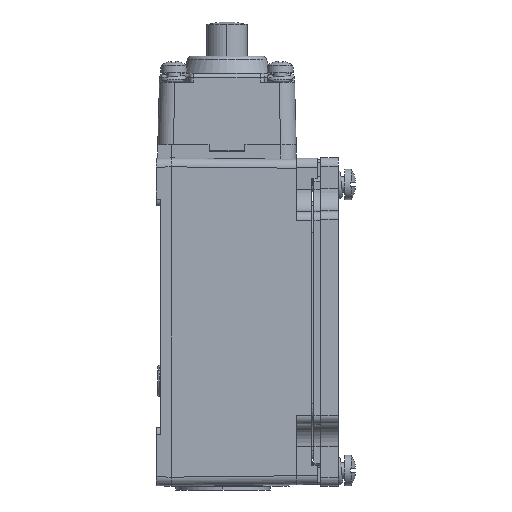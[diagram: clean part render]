
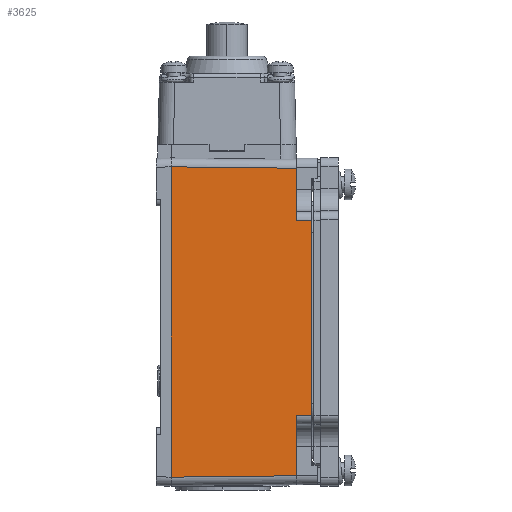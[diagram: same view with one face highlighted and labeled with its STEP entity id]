
A CAD part, left-side view. The second image highlights one B-rep face of the part: STEP entity #3625.
In plain terms, the highlighted planar face has unit normal (-1, -0.011, 0).
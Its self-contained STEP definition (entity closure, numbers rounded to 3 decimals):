
#2437=FACE_OUTER_BOUND('',#5420,.T.);
#3625=ADVANCED_FACE('',(#2437),#4310,.T.);
#4310=PLANE('',#21832);
#5420=EDGE_LOOP('',(#12828,#12829,#12830,#12831,#12832,#12833,#12834,#12835));
#6491=LINE('',#52815,#7942);
#6503=LINE('',#52866,#7954);
#6517=LINE('',#52898,#7968);
#6522=LINE('',#52914,#7973);
#6846=LINE('',#54889,#8297);
#6847=LINE('',#54891,#8298);
#6848=LINE('',#54893,#8299);
#6849=LINE('',#54894,#8300);
#7942=VECTOR('',#24958,1.);
#7954=VECTOR('',#25000,1.);
#7968=VECTOR('',#25042,1.);
#7973=VECTOR('',#25055,1.);
#8297=VECTOR('',#26173,1.);
#8298=VECTOR('',#26176,1.);
#8299=VECTOR('',#26177,1.);
#8300=VECTOR('',#26178,1.);
#12828=ORIENTED_EDGE('',*,*,#18248,.T.);
#12829=ORIENTED_EDGE('',*,*,#18240,.F.);
#12830=ORIENTED_EDGE('',*,*,#18199,.T.);
#12831=ORIENTED_EDGE('',*,*,#18817,.T.);
#12832=ORIENTED_EDGE('',*,*,#18818,.T.);
#12833=ORIENTED_EDGE('',*,*,#18819,.F.);
#12834=ORIENTED_EDGE('',*,*,#18224,.T.);
#12835=ORIENTED_EDGE('',*,*,#18820,.F.);
#15791=VERTEX_POINT('',#52814);
#15792=VERTEX_POINT('',#52816);
#15808=VERTEX_POINT('',#52852);
#15815=VERTEX_POINT('',#52865);
#15820=VERTEX_POINT('',#52899);
#15827=VERTEX_POINT('',#52915);
#16183=VERTEX_POINT('',#54888);
#16184=VERTEX_POINT('',#54892);
#18199=EDGE_CURVE('',#15792,#15791,#6491,.T.);
#18224=EDGE_CURVE('',#15808,#15815,#6503,.T.);
#18240=EDGE_CURVE('',#15792,#15820,#6517,.T.);
#18248=EDGE_CURVE('',#15827,#15820,#6522,.T.);
#18817=EDGE_CURVE('',#15791,#16183,#6846,.T.);
#18818=EDGE_CURVE('',#16183,#16184,#6847,.T.);
#18819=EDGE_CURVE('',#15808,#16184,#6848,.T.);
#18820=EDGE_CURVE('',#15827,#15815,#6849,.T.);
#21832=AXIS2_PLACEMENT_3D('',#54895,#26179,#26180);
#24958=DIRECTION('',(0.,0.,1.));
#25000=DIRECTION('',(0.,0.,1.));
#25042=DIRECTION('',(0.011,-1.,0.));
#25055=DIRECTION('',(0.,0.,1.));
#26173=DIRECTION('',(-0.011,1.,0.011));
#26176=DIRECTION('',(0.,0.,-1.));
#26177=DIRECTION('',(-0.011,1.,-0.011));
#26178=DIRECTION('',(-0.011,1.,0.));
#26179=DIRECTION('',(-1.,-0.011,0.));
#26180=DIRECTION('',(0.,0.,1.));
#52814=CARTESIAN_POINT('',(514.312,7.4,-39.662));
#52815=CARTESIAN_POINT('',(514.312,7.4,-51.45));
#52816=CARTESIAN_POINT('',(514.312,7.4,-51.45));
#52852=CARTESIAN_POINT('',(514.312,7.4,-108.988));
#52865=CARTESIAN_POINT('',(514.312,7.4,-95.45));
#52866=CARTESIAN_POINT('',(514.312,7.4,-108.988));
#52898=CARTESIAN_POINT('',(514.312,7.4,-51.45));
#52899=CARTESIAN_POINT('',(514.35,3.95,-51.45));
#52914=CARTESIAN_POINT('',(514.35,3.95,-95.45));
#52915=CARTESIAN_POINT('',(514.35,3.95,-95.45));
#54888=CARTESIAN_POINT('',(514.,35.6,-39.349));
#54889=CARTESIAN_POINT('',(514.312,7.4,-39.662));
#54891=CARTESIAN_POINT('',(514.,35.6,-39.349));
#54892=CARTESIAN_POINT('',(514.,35.6,-109.301));
#54893=CARTESIAN_POINT('',(514.312,7.4,-108.988));
#54894=CARTESIAN_POINT('',(514.35,3.95,-95.45));
#54895=CARTESIAN_POINT('',(514.,35.6,-37.35));
